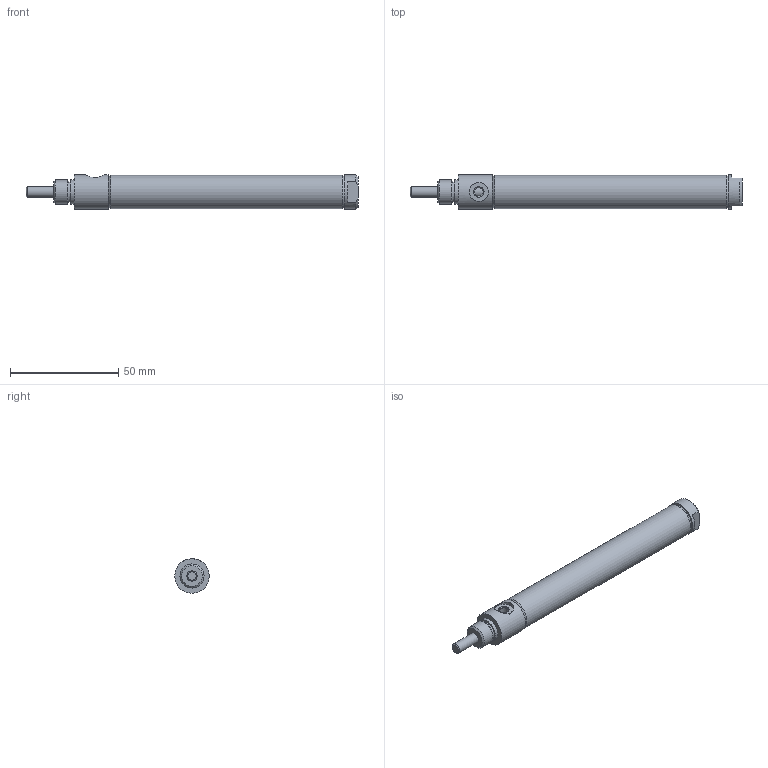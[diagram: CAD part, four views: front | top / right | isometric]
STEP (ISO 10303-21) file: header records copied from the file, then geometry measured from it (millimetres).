
FILE_DESCRIPTION( ( 'STEP AP214' ), '1' );
FILE_NAME( 'p:/temp/worker_436/temp/exporttempdir_4708_83_zDKcX/format_0/0563D01-03A-03.stp', '2020-05-07T13:36:34', ( 'License CC BY-ND 4.0' ), ( 'CADENAS' ), ' ', 'PARTsolutions', ' ' );
FILE_SCHEMA( ( 'AUTOMOTIVE_DESIGN { 1 0 10303 214 1 1 1 1 }' ) );
Length unit declared in the file: inch
Products named in the file (3): 0563D01-03A-03; _0563D01-03A-030b; _0563D01-03A-030r
Assembly tree (2 placements, depth 2):
  0563D01-03A-03
    _0563D01-03A-030b
    _0563D01-03A-030r
Bounding box: 153.19 x 15.88 x 15.88 mm (x, y, z)
Volume: 14515.3 mm3; surface area: 16183 mm2
Topology: 2 solids, 2 shells, 42 faces, 77 edges, 49 vertices
Faces by surface type: plane 18, cylinder 15, cone 9
Full cylindrical faces by diameter (mm): 3.967 x2, 4.775 x3, 4.826 x1, 8.738 x1, 9.601 x1, 11.1 x1, 11.112 x1, 14.287 x2, 15.392 x1, 15.875 x2
Entity records: 1446 total; most frequent: CARTESIAN_POINT 289, DIRECTION 176, ORIENTED_EDGE 106, AXIS2_PLACEMENT_3D 84, EDGE_LOOP 78, FACE_OUTER_BOUND 57, EDGE_CURVE 53, VERTEX_POINT 47
